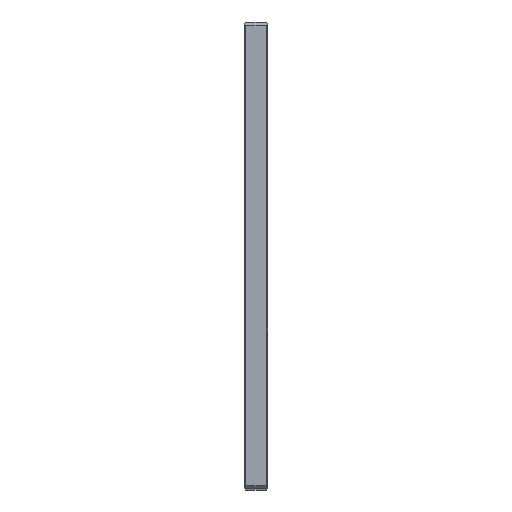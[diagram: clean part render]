
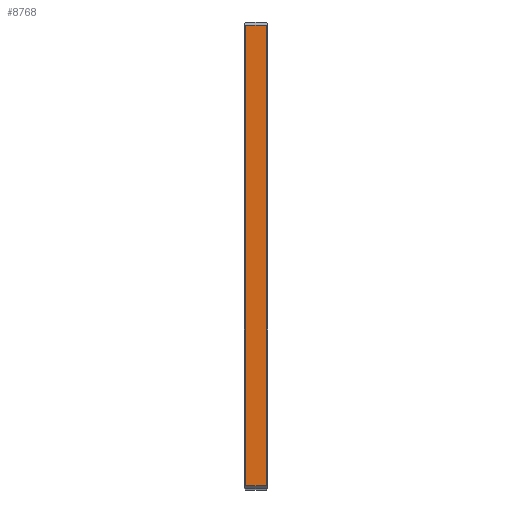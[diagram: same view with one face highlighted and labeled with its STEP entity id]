
A CAD part, top view. The second image highlights one B-rep face of the part: STEP entity #8768.
In plain terms, the highlighted planar face has unit normal (0, 0, 1).
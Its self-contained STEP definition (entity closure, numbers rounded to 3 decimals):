
#2626=FACE_OUTER_BOUND($,#3729,.T.);
#3729=EDGE_LOOP($,(#7411,#7412,#7413,#7414));
#5040=LINE($,#14093,#5080);
#5048=LINE($,#14542,#5088);
#5053=LINE($,#14552,#5093);
#5071=LINE($,#15020,#5111);
#5080=VECTOR($,#10974,13.);
#5088=VECTOR($,#11420,296.);
#5093=VECTOR($,#11427,13.);
#5111=VECTOR($,#11895,296.);
#5119=VERTEX_POINT($,#14090);
#5120=VERTEX_POINT($,#14092);
#5342=VERTEX_POINT($,#14540);
#5346=VERTEX_POINT($,#14550);
#6012=EDGE_CURVE($,#5119,#5120,#5040,.T.);
#6237=EDGE_CURVE($,#5342,#5119,#5048,.T.);
#6242=EDGE_CURVE($,#5346,#5342,#5053,.T.);
#6477=EDGE_CURVE($,#5120,#5346,#5071,.T.);
#7411=ORIENTED_EDGE($,*,*,#6237,.F.);
#7412=ORIENTED_EDGE($,*,*,#6242,.F.);
#7413=ORIENTED_EDGE($,*,*,#6477,.F.);
#7414=ORIENTED_EDGE($,*,*,#6012,.F.);
#8745=PLANE($,#9874);
#8768=ADVANCED_FACE($,(#2626),#8745,.T.);
#9874=AXIS2_PLACEMENT_3D($,#15025,#11900,#11901);
#10974=DIRECTION($,(1.,0.,0.));
#11420=DIRECTION($,(0.,1.,0.));
#11427=DIRECTION($,(-1.,0.,0.));
#11895=DIRECTION($,(0.,-1.,0.));
#11900=DIRECTION('center_axis',(0.,0.,1.));
#11901=DIRECTION('ref_axis',(0.,-1.,0.));
#14090=CARTESIAN_POINT('',(1.,298.,450.));
#14092=CARTESIAN_POINT('',(14.,298.,450.));
#14093=CARTESIAN_POINT($,(0.,298.,450.));
#14540=CARTESIAN_POINT('',(1.,2.,450.));
#14542=CARTESIAN_POINT($,(1.,225.,450.));
#14550=CARTESIAN_POINT('',(14.,2.,450.));
#14552=CARTESIAN_POINT($,(0.,2.,450.));
#15020=CARTESIAN_POINT($,(14.,225.,450.));
#15025=CARTESIAN_POINT('Origin',(0.,300.,450.));
